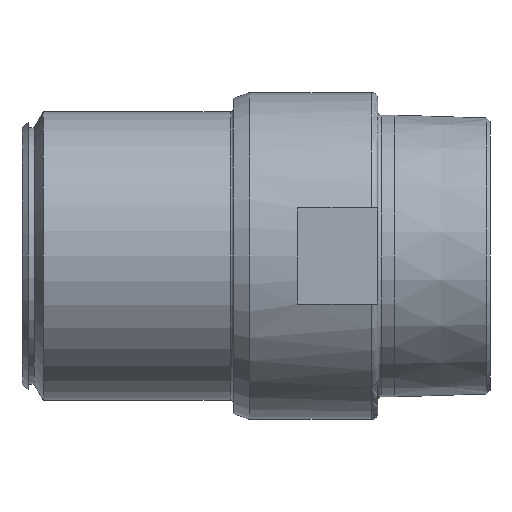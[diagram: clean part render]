
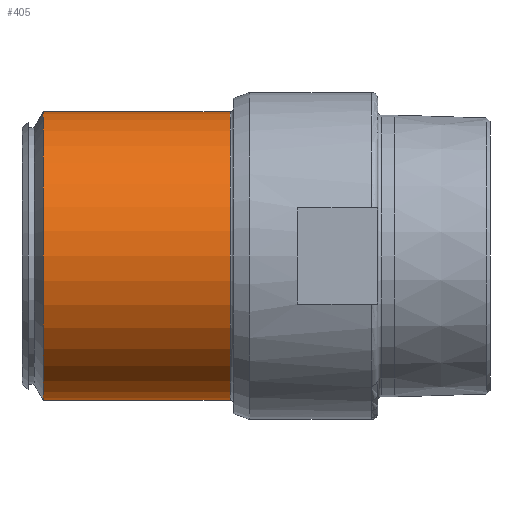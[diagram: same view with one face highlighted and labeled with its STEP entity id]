
A CAD part, front view. The second image highlights one B-rep face of the part: STEP entity #405.
In plain terms, the highlighted cylindrical face has radius 45 mm (diameter 90 mm), a partial arc.
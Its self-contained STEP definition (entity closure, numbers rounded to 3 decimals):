
#46 = CIRCLE ( 'NONE', #47, 45. ) ;
#47 = AXIS2_PLACEMENT_3D ( 'NONE', #837, #838, #839 ) ;
#242 = CARTESIAN_POINT ( 'NONE',  ( -5.267, 0., 45. ) ) ;
#243 = CARTESIAN_POINT ( 'NONE',  ( -5.267, 0., -45. ) ) ;
#244 = LINE ( 'NONE', #243, #996 ) ;
#249 = LINE ( 'NONE', #242, #993 ) ;
#250 = DIRECTION ( 'NONE',  ( -1., 0., 0. ) ) ;
#256 = DIRECTION ( 'NONE',  ( -1., 0., 0. ) ) ;
#259 = CARTESIAN_POINT ( 'NONE',  ( 64.917, 0., 0. ) ) ;
#260 = DIRECTION ( 'NONE',  ( -1., 0., 0. ) ) ;
#261 = DIRECTION ( 'NONE',  ( 0., 0., 1. ) ) ;
#337 = CARTESIAN_POINT ( 'NONE',  ( 64.917, 0., -45. ) ) ;
#379 = AXIS2_PLACEMENT_3D ( 'NONE', #420, #436, #418 ) ;
#405 = ADVANCED_FACE ( 'NONE', ( #421 ), #419, .T. ) ;
#418 = DIRECTION ( 'NONE',  ( 0., 0., 1. ) ) ;
#419 = CYLINDRICAL_SURFACE ( 'NONE', #379, 45. ) ;
#420 = CARTESIAN_POINT ( 'NONE',  ( -5.267, 0., 0. ) ) ;
#421 = FACE_OUTER_BOUND ( 'NONE', #464, .T. ) ;
#433 = ORIENTED_EDGE ( 'NONE', *, *, #972, .T. ) ;
#436 = DIRECTION ( 'NONE',  ( -1., 0., 0. ) ) ;
#464 = EDGE_LOOP ( 'NONE', ( #535, #539, #433, #480 ) ) ;
#480 = ORIENTED_EDGE ( 'NONE', *, *, #634, .F. ) ;
#535 = ORIENTED_EDGE ( 'NONE', *, *, #970, .F. ) ;
#539 = ORIENTED_EDGE ( 'NONE', *, *, #973, .T. ) ;
#634 = EDGE_CURVE ( 'NONE', #1202, #1203, #46, .T. ) ;
#837 = CARTESIAN_POINT ( 'NONE',  ( 6.691, 0., 0. ) ) ;
#838 = DIRECTION ( 'NONE',  ( -1., 0., 0. ) ) ;
#839 = DIRECTION ( 'NONE',  ( 0., 0., -1. ) ) ;
#970 = EDGE_CURVE ( 'NONE', #1169, #1202, #244, .T. ) ;
#972 = EDGE_CURVE ( 'NONE', #1210, #1203, #249, .T. ) ;
#973 = EDGE_CURVE ( 'NONE', #1169, #1210, #995, .T. ) ;
#993 = VECTOR ( 'NONE', #256, 1000. ) ;
#995 = CIRCLE ( 'NONE', #999, 45. ) ;
#996 = VECTOR ( 'NONE', #250, 1000. ) ;
#999 = AXIS2_PLACEMENT_3D ( 'NONE', #259, #260, #261 ) ;
#1169 = VERTEX_POINT ( 'NONE', #337 ) ;
#1202 = VERTEX_POINT ( 'NONE', #1229 ) ;
#1203 = VERTEX_POINT ( 'NONE', #1230 ) ;
#1210 = VERTEX_POINT ( 'NONE', #1237 ) ;
#1229 = CARTESIAN_POINT ( 'NONE',  ( 6.691, 0., -45. ) ) ;
#1230 = CARTESIAN_POINT ( 'NONE',  ( 6.691, 0., 45. ) ) ;
#1237 = CARTESIAN_POINT ( 'NONE',  ( 64.917, 0., 45. ) ) ;
